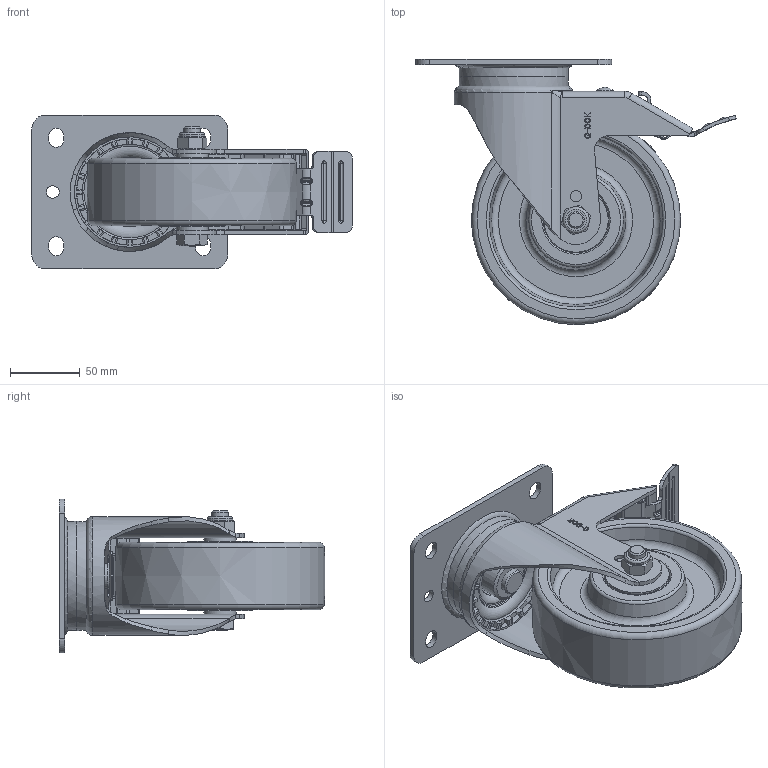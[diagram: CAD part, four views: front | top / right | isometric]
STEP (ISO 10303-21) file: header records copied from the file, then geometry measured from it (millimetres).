
FILE_DESCRIPTION(/* description */ (''),/* implementation_level */ '2;1');
FILE_NAME(/* name */ '\\192.168.10.38\지덕공유\1.기술연구소\2.연구개발 진행중\124.SPH-Series_중하중_2025.02.11\1.도면\2. 3D\홈페이지용\SPH-150-BSF-NYD-PEU.stp',/* time_stamp */ '2026-05-19T17:24:25+09:00',/* author */ ('admin'),/* organization */ ('지덕산업'),/* preprocessor_version */ 'ST-DEVELOPER v18.1',/* originating_system */ 'Autodesk Inventor 2021',/* authorisation */ '');
FILE_SCHEMA (('AUTOMOTIVE_DESIGN { 1 0 10303 214 3 1 1 }'));
Products named in the file (1): SPH-150-BSF-NYD-PEU
Bounding box: 228.97 x 189.96 x 110 mm (x, y, z)
Volume: 857936.9 mm3; surface area: 178186.5 mm2
Topology: 1 solids, 2 shells, 1543 faces, 4203 edges, 2728 vertices
Faces by surface type: plane 683, bspline 518, cylinder 253, torus 46, cone 42, sphere 1
Full cylindrical faces by diameter (mm): 6 x1, 8 x5, 9 x3, 12 x2, 18 x2, 18.5 x1, 31 x1, 31.177 x1, 46.001 x2, 47 x2
Entity records: 53840 total; most frequent: CARTESIAN_POINT 18004, ORIENTED_EDGE 8370, DIRECTION 5847, EDGE_CURVE 4187, VERTEX_POINT 2728, LINE 2339, VECTOR 2339, AXIS2_PLACEMENT_3D 1754
